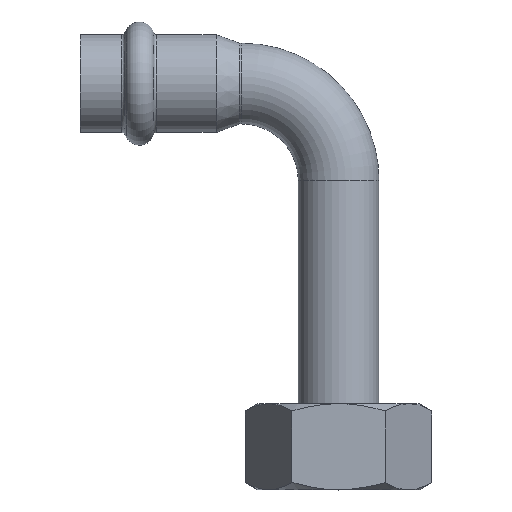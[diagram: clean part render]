
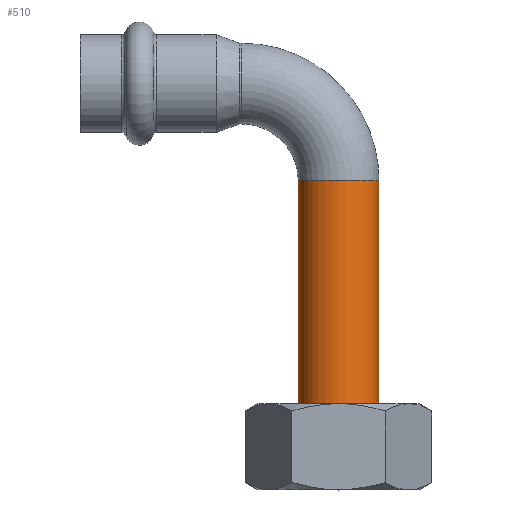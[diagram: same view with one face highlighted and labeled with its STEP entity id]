
A CAD part, top view. The second image highlights one B-rep face of the part: STEP entity #510.
In plain terms, the highlighted cylindrical face has radius 7.5 mm (diameter 15 mm), a full revolution.
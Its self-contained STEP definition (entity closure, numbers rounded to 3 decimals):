
#483=CARTESIAN_POINT('',(0.,-18.,0.0));
#484=DIRECTION('',(0.,-1.0,0.0));
#485=DIRECTION('',(0.0,0.0,1.0));
#486=AXIS2_PLACEMENT_3D('',#483,#484,#485);
#487=CYLINDRICAL_SURFACE('',#486,7.5);
#488=CARTESIAN_POINT('',(0.,-60.0,-7.5));
#489=VERTEX_POINT('',#488);
#490=CARTESIAN_POINT('',(0.,-60.,0.0));
#491=DIRECTION('',(0.0,1.0,0.0));
#492=DIRECTION('',(0.0,0.0,1.0));
#493=AXIS2_PLACEMENT_3D('',#490,#491,#492);
#494=CIRCLE('',#493,7.5);
#495=EDGE_CURVE('',#489,#489,#494,.T.);
#496=ORIENTED_EDGE('',*,*,#495,.T.);
#497=EDGE_LOOP('',(#496));
#498=FACE_OUTER_BOUND('',#497,.T.);
#499=CARTESIAN_POINT('',(0.,-18.,-7.5));
#500=VERTEX_POINT('',#499);
#501=CARTESIAN_POINT('',(0.,-18.,0.0));
#502=DIRECTION('',(0.0,1.0,0.0));
#503=DIRECTION('',(0.0,0.0,1.0));
#504=AXIS2_PLACEMENT_3D('',#501,#502,#503);
#505=CIRCLE('',#504,7.5);
#506=EDGE_CURVE('',#500,#500,#505,.T.);
#507=ORIENTED_EDGE('',*,*,#506,.F.);
#508=EDGE_LOOP('',(#507));
#509=FACE_BOUND('',#508,.T.);
#510=ADVANCED_FACE('',(#498,#509),#487,.T.);
